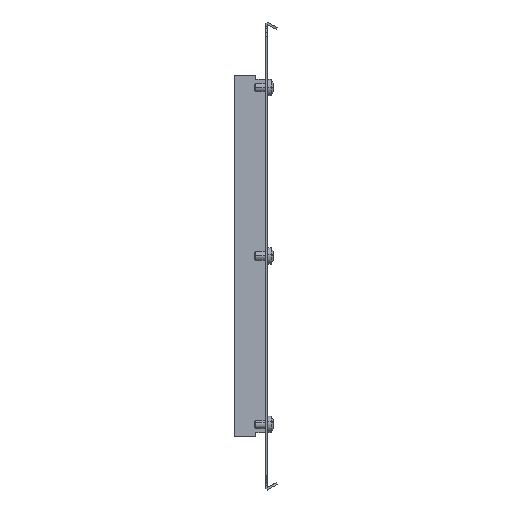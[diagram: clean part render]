
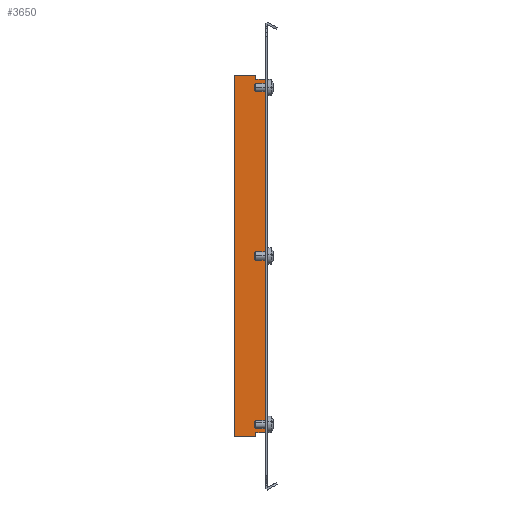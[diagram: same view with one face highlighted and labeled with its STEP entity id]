
A CAD part, left-side view. The second image highlights one B-rep face of the part: STEP entity #3650.
In plain terms, the highlighted planar face has unit normal (-1, 0, 0).
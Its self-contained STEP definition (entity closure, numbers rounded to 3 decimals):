
#51 = AXIS2_PLACEMENT_3D ( 'NONE', #3729, #5066, #2125 ) ;
#87 = ORIENTED_EDGE ( 'NONE', *, *, #8458, .F. ) ;
#189 = CARTESIAN_POINT ( 'NONE',  ( 133.738, 0.416, 130.425 ) ) ;
#223 = ORIENTED_EDGE ( 'NONE', *, *, #8057, .T. ) ;
#600 = VECTOR ( 'NONE', #8502, 1000. ) ;
#616 = DIRECTION ( 'NONE',  ( 0., 0., 1. ) ) ;
#717 = EDGE_CURVE ( 'NONE', #5863, #6995, #6813, .T. ) ;
#746 = ORIENTED_EDGE ( 'NONE', *, *, #5418, .F. ) ;
#790 = CARTESIAN_POINT ( 'NONE',  ( 133.738, 0.416, 130.425 ) ) ;
#930 = VECTOR ( 'NONE', #8500, 1000. ) ;
#1038 = DIRECTION ( 'NONE',  ( 0., 0., 1. ) ) ;
#1041 = CARTESIAN_POINT ( 'NONE',  ( 133.738, 0.416, -135.575 ) ) ;
#1072 = EDGE_CURVE ( 'NONE', #8777, #4163, #2262, .T. ) ;
#1191 = LINE ( 'NONE', #3372, #5119 ) ;
#1232 = VECTOR ( 'NONE', #616, 1000. ) ;
#1304 = EDGE_CURVE ( 'NONE', #6135, #4352, #5535, .T. ) ;
#1350 = EDGE_CURVE ( 'NONE', #5863, #4352, #5682, .T. ) ;
#1374 = CARTESIAN_POINT ( 'NONE',  ( 133.738, -5.834, -132.575 ) ) ;
#1485 = CARTESIAN_POINT ( 'NONE',  ( 133.738, 16.166, -1.325 ) ) ;
#1664 = CARTESIAN_POINT ( 'NONE',  ( 133.738, -6.834, 129.925 ) ) ;
#1772 = CARTESIAN_POINT ( 'NONE',  ( 133.738, -5.834, -132.575 ) ) ;
#1891 = ORIENTED_EDGE ( 'NONE', *, *, #5311, .F. ) ;
#1967 = CARTESIAN_POINT ( 'NONE',  ( 133.738, -5.334, 132.925 ) ) ;
#2034 = DIRECTION ( 'NONE',  ( 0., 0., -1. ) ) ;
#2125 = DIRECTION ( 'NONE',  ( 0., 0., 1. ) ) ;
#2245 = EDGE_CURVE ( 'NONE', #4173, #8233, #3602, .T. ) ;
#2258 = CARTESIAN_POINT ( 'NONE',  ( 133.738, 0.416, -1.325 ) ) ;
#2262 = LINE ( 'NONE', #6570, #7251 ) ;
#2348 = LINE ( 'NONE', #1772, #6372 ) ;
#2427 = LINE ( 'NONE', #1664, #5870 ) ;
#2449 = VERTEX_POINT ( 'NONE', #4161 ) ;
#2478 = DIRECTION ( 'NONE',  ( 0., 1., 0. ) ) ;
#2599 = VECTOR ( 'NONE', #8112, 1000. ) ;
#2639 = VECTOR ( 'NONE', #1038, 1000. ) ;
#2710 = LINE ( 'NONE', #9381, #6876 ) ;
#2978 = EDGE_CURVE ( 'NONE', #8713, #8233, #5924, .T. ) ;
#3034 = LINE ( 'NONE', #1485, #2599 ) ;
#3145 = CARTESIAN_POINT ( 'NONE',  ( 133.738, 16.166, -133.075 ) ) ;
#3175 = ORIENTED_EDGE ( 'NONE', *, *, #1072, .F. ) ;
#3372 = CARTESIAN_POINT ( 'NONE',  ( 133.738, 16.166, 129.925 ) ) ;
#3602 = LINE ( 'NONE', #8822, #6390 ) ;
#3650 = ADVANCED_FACE ( 'NONE', ( #4430 ), #9479, .T. ) ;
#3729 = CARTESIAN_POINT ( 'NONE',  ( 133.738, -5.334, -1.325 ) ) ;
#3732 = ORIENTED_EDGE ( 'NONE', *, *, #2978, .T. ) ;
#4133 = EDGE_CURVE ( 'NONE', #9232, #5628, #2348, .T. ) ;
#4161 = CARTESIAN_POINT ( 'NONE',  ( 133.738, 0.416, -132.575 ) ) ;
#4163 = VERTEX_POINT ( 'NONE', #6749 ) ;
#4173 = VERTEX_POINT ( 'NONE', #1041 ) ;
#4352 = VERTEX_POINT ( 'NONE', #5668 ) ;
#4430 = FACE_OUTER_BOUND ( 'NONE', #8033, .T. ) ;
#4432 = ORIENTED_EDGE ( 'NONE', *, *, #717, .F. ) ;
#4502 = CARTESIAN_POINT ( 'NONE',  ( 133.738, 16.166, -132.575 ) ) ;
#4598 = DIRECTION ( 'NONE',  ( 0., -1., 0. ) ) ;
#5066 = DIRECTION ( 'NONE',  ( -1., 0., 0. ) ) ;
#5090 = ORIENTED_EDGE ( 'NONE', *, *, #6651, .F. ) ;
#5119 = VECTOR ( 'NONE', #9316, 1000. ) ;
#5311 = EDGE_CURVE ( 'NONE', #8713, #7427, #1191, .T. ) ;
#5362 = CARTESIAN_POINT ( 'NONE',  ( 133.738, 16.166, 130.425 ) ) ;
#5418 = EDGE_CURVE ( 'NONE', #7427, #6135, #3034, .T. ) ;
#5535 = LINE ( 'NONE', #1967, #930 ) ;
#5628 = VERTEX_POINT ( 'NONE', #7131 ) ;
#5635 = CARTESIAN_POINT ( 'NONE',  ( 133.738, 0.416, 130.425 ) ) ;
#5668 = CARTESIAN_POINT ( 'NONE',  ( 133.738, 0.416, 132.925 ) ) ;
#5682 = LINE ( 'NONE', #5635, #1232 ) ;
#5779 = CARTESIAN_POINT ( 'NONE',  ( 133.738, 16.166, -133.075 ) ) ;
#5847 = DIRECTION ( 'NONE',  ( 0., -1., 0. ) ) ;
#5863 = VERTEX_POINT ( 'NONE', #790 ) ;
#5870 = VECTOR ( 'NONE', #4598, 1000. ) ;
#5881 = DIRECTION ( 'NONE',  ( 0., 0., -1. ) ) ;
#5888 = EDGE_CURVE ( 'NONE', #9232, #2449, #7564, .T. ) ;
#5924 = LINE ( 'NONE', #5779, #8071 ) ;
#6018 = VECTOR ( 'NONE', #6710, 1000. ) ;
#6135 = VERTEX_POINT ( 'NONE', #7751 ) ;
#6184 = ORIENTED_EDGE ( 'NONE', *, *, #5888, .F. ) ;
#6314 = CARTESIAN_POINT ( 'NONE',  ( 133.738, 0.416, -133.075 ) ) ;
#6372 = VECTOR ( 'NONE', #9026, 1000. ) ;
#6390 = VECTOR ( 'NONE', #6537, 1000. ) ;
#6537 = DIRECTION ( 'NONE',  ( 0., 1., 0. ) ) ;
#6570 = CARTESIAN_POINT ( 'NONE',  ( 133.738, -5.334, 129.925 ) ) ;
#6651 = EDGE_CURVE ( 'NONE', #7988, #4173, #8989, .T. ) ;
#6690 = ORIENTED_EDGE ( 'NONE', *, *, #7052, .F. ) ;
#6710 = DIRECTION ( 'NONE',  ( 0., 0., -1. ) ) ;
#6749 = CARTESIAN_POINT ( 'NONE',  ( 133.738, -6.834, 129.925 ) ) ;
#6775 = VECTOR ( 'NONE', #2478, 1000. ) ;
#6781 = CARTESIAN_POINT ( 'NONE',  ( 133.738, 0.416, 129.925 ) ) ;
#6813 = LINE ( 'NONE', #189, #600 ) ;
#6876 = VECTOR ( 'NONE', #2034, 1000. ) ;
#6995 = VERTEX_POINT ( 'NONE', #6781 ) ;
#7052 = EDGE_CURVE ( 'NONE', #6995, #8777, #2427, .T. ) ;
#7131 = CARTESIAN_POINT ( 'NONE',  ( 133.738, -6.834, -132.575 ) ) ;
#7198 = ORIENTED_EDGE ( 'NONE', *, *, #1350, .T. ) ;
#7251 = VECTOR ( 'NONE', #5847, 1000. ) ;
#7427 = VERTEX_POINT ( 'NONE', #5362 ) ;
#7477 = CARTESIAN_POINT ( 'NONE',  ( 133.738, 0.416, -133.075 ) ) ;
#7564 = LINE ( 'NONE', #4502, #6775 ) ;
#7665 = LINE ( 'NONE', #7477, #2639 ) ;
#7751 = CARTESIAN_POINT ( 'NONE',  ( 133.738, 16.166, 132.925 ) ) ;
#7926 = CARTESIAN_POINT ( 'NONE',  ( 133.738, -5.834, 129.925 ) ) ;
#7988 = VERTEX_POINT ( 'NONE', #6314 ) ;
#8033 = EDGE_LOOP ( 'NONE', ( #6184, #8083, #87, #3175, #6690, #4432, #7198, #9199, #746, #1891, #3732, #8684, #5090, #223 ) ) ;
#8057 = EDGE_CURVE ( 'NONE', #7988, #2449, #7665, .T. ) ;
#8071 = VECTOR ( 'NONE', #5881, 1000. ) ;
#8083 = ORIENTED_EDGE ( 'NONE', *, *, #4133, .T. ) ;
#8112 = DIRECTION ( 'NONE',  ( 0., 0., 1. ) ) ;
#8233 = VERTEX_POINT ( 'NONE', #8678 ) ;
#8458 = EDGE_CURVE ( 'NONE', #4163, #5628, #2710, .T. ) ;
#8500 = DIRECTION ( 'NONE',  ( 0., -1., 0. ) ) ;
#8502 = DIRECTION ( 'NONE',  ( 0., 0., -1. ) ) ;
#8678 = CARTESIAN_POINT ( 'NONE',  ( 133.738, 16.166, -135.575 ) ) ;
#8684 = ORIENTED_EDGE ( 'NONE', *, *, #2245, .F. ) ;
#8713 = VERTEX_POINT ( 'NONE', #3145 ) ;
#8777 = VERTEX_POINT ( 'NONE', #7926 ) ;
#8822 = CARTESIAN_POINT ( 'NONE',  ( 133.738, -5.334, -135.575 ) ) ;
#8989 = LINE ( 'NONE', #2258, #6018 ) ;
#9026 = DIRECTION ( 'NONE',  ( 0., -1., 0. ) ) ;
#9199 = ORIENTED_EDGE ( 'NONE', *, *, #1304, .F. ) ;
#9232 = VERTEX_POINT ( 'NONE', #1374 ) ;
#9316 = DIRECTION ( 'NONE',  ( 0., 0., 1. ) ) ;
#9381 = CARTESIAN_POINT ( 'NONE',  ( 133.738, -6.834, -1.325 ) ) ;
#9479 = PLANE ( 'NONE',  #51 ) ;
